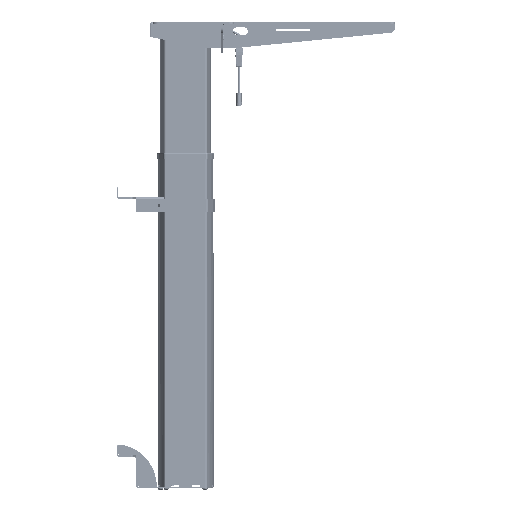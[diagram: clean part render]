
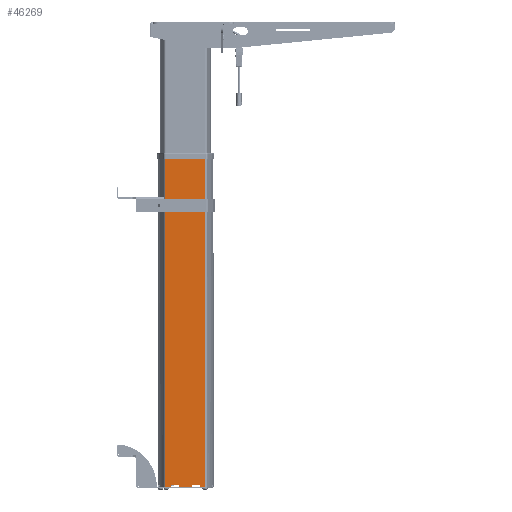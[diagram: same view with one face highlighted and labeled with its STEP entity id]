
A CAD part, left-side view. The second image highlights one B-rep face of the part: STEP entity #46269.
In plain terms, the highlighted planar face has unit normal (-1, 0, 0).
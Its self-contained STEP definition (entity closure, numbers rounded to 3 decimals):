
#869 = DIRECTION ( 'NONE',  ( 0., 0., -1. ) ) ;
#1371 = LINE ( 'NONE', #64216, #73036 ) ;
#2789 = VERTEX_POINT ( 'NONE', #105660 ) ;
#3153 = LINE ( 'NONE', #109099, #110423 ) ;
#4597 = DIRECTION ( 'NONE',  ( 0., 0., -1. ) ) ;
#4897 = ORIENTED_EDGE ( 'NONE', *, *, #40628, .F. ) ;
#6029 = LINE ( 'NONE', #40374, #95425 ) ;
#7270 = DIRECTION ( 'NONE',  ( 0., -1., 0. ) ) ;
#8859 = LINE ( 'NONE', #69983, #55859 ) ;
#8925 = DIRECTION ( 'NONE',  ( 0., 0., -1. ) ) ;
#9507 = CARTESIAN_POINT ( 'NONE',  ( -70., -27.6, 4.1 ) ) ;
#9650 = VECTOR ( 'NONE', #62387, 1000. ) ;
#9849 = CARTESIAN_POINT ( 'NONE',  ( -70., -12.4, 4.1 ) ) ;
#11447 = VERTEX_POINT ( 'NONE', #22945 ) ;
#11723 = ORIENTED_EDGE ( 'NONE', *, *, #63597, .T. ) ;
#13685 = VERTEX_POINT ( 'NONE', #66260 ) ;
#17993 = EDGE_CURVE ( 'NONE', #2789, #109382, #90922, .T. ) ;
#20906 = EDGE_CURVE ( 'NONE', #70491, #65183, #44430, .T. ) ;
#21198 = DIRECTION ( 'NONE',  ( 0., -1., 0. ) ) ;
#21821 = ORIENTED_EDGE ( 'NONE', *, *, #17993, .T. ) ;
#22945 = CARTESIAN_POINT ( 'NONE',  ( -70., -38.327, 644. ) ) ;
#22980 = EDGE_CURVE ( 'NONE', #70491, #86073, #51622, .T. ) ;
#26695 = DIRECTION ( 'NONE',  ( 1., 0., 0. ) ) ;
#27584 = DIRECTION ( 'NONE',  ( 0., -1., 0. ) ) ;
#27768 = VERTEX_POINT ( 'NONE', #87987 ) ;
#31491 = LINE ( 'NONE', #74546, #81648 ) ;
#32093 = CARTESIAN_POINT ( 'NONE',  ( -70., -38.327, 0. ) ) ;
#32761 = EDGE_CURVE ( 'NONE', #27768, #103512, #31491, .T. ) ;
#33206 = CARTESIAN_POINT ( 'NONE',  ( -70., 20.312, 634.25 ) ) ;
#33731 = PLANE ( 'NONE',  #89962 ) ;
#34174 = DIRECTION ( 'NONE',  ( 0., 1., 0. ) ) ;
#34898 = LINE ( 'NONE', #9849, #56189 ) ;
#37691 = EDGE_CURVE ( 'NONE', #13685, #103512, #90401, .T. ) ;
#37832 = DIRECTION ( 'NONE',  ( 1., 0., 0. ) ) ;
#40374 = CARTESIAN_POINT ( 'NONE',  ( -70., -39., 0. ) ) ;
#40628 = EDGE_CURVE ( 'NONE', #86073, #60782, #34898, .T. ) ;
#40776 = DIRECTION ( 'NONE',  ( 0., -1., 0. ) ) ;
#41950 = VECTOR ( 'NONE', #34174, 1000. ) ;
#43205 = CARTESIAN_POINT ( 'NONE',  ( -70., -27.6, 0. ) ) ;
#43450 = CARTESIAN_POINT ( 'NONE',  ( -70., -12.4, 4.1 ) ) ;
#44430 = LINE ( 'NONE', #9507, #54667 ) ;
#46269 = ADVANCED_FACE ( 'NONE', ( #66271, #70919 ), #33731, .F. ) ;
#48483 = CARTESIAN_POINT ( 'NONE',  ( -70., -12.4, 0. ) ) ;
#48817 = ORIENTED_EDGE ( 'NONE', *, *, #20906, .T. ) ;
#49014 = ORIENTED_EDGE ( 'NONE', *, *, #100515, .T. ) ;
#49580 = EDGE_LOOP ( 'NONE', ( #106261 ) ) ;
#49946 = CIRCLE ( 'NONE', #94588, 3.75 ) ;
#50105 = ORIENTED_EDGE ( 'NONE', *, *, #101488, .T. ) ;
#51163 = DIRECTION ( 'NONE',  ( 0., 0., -1. ) ) ;
#51366 = ORIENTED_EDGE ( 'NONE', *, *, #77941, .T. ) ;
#51622 = LINE ( 'NONE', #43450, #41950 ) ;
#52078 = CARTESIAN_POINT ( 'NONE',  ( -70., -39., 4.1 ) ) ;
#52314 = CARTESIAN_POINT ( 'NONE',  ( -70., 27.6, 0. ) ) ;
#53507 = DIRECTION ( 'NONE',  ( 0., 0., -1. ) ) ;
#54667 = VECTOR ( 'NONE', #96285, 1000. ) ;
#54833 = VERTEX_POINT ( 'NONE', #98557 ) ;
#55859 = VECTOR ( 'NONE', #107206, 1000. ) ;
#56189 = VECTOR ( 'NONE', #53507, 1000. ) ;
#59702 = CARTESIAN_POINT ( 'NONE',  ( -70., 12.4, 0. ) ) ;
#60782 = VERTEX_POINT ( 'NONE', #48483 ) ;
#62387 = DIRECTION ( 'NONE',  ( 0., 0., -1. ) ) ;
#63547 = CARTESIAN_POINT ( 'NONE',  ( -70., 12.4, 644. ) ) ;
#63597 = EDGE_CURVE ( 'NONE', #13685, #2789, #76564, .T. ) ;
#63610 = ORIENTED_EDGE ( 'NONE', *, *, #37691, .F. ) ;
#64216 = CARTESIAN_POINT ( 'NONE',  ( -70., -39., 644. ) ) ;
#65183 = VERTEX_POINT ( 'NONE', #43205 ) ;
#65742 = CARTESIAN_POINT ( 'NONE',  ( -70., 20.312, 638. ) ) ;
#66260 = CARTESIAN_POINT ( 'NONE',  ( -70., 27.6, 4.1 ) ) ;
#66271 = FACE_BOUND ( 'NONE', #49580, .T. ) ;
#68430 = ORIENTED_EDGE ( 'NONE', *, *, #86167, .F. ) ;
#69983 = CARTESIAN_POINT ( 'NONE',  ( -70., -39., 0. ) ) ;
#70085 = CARTESIAN_POINT ( 'NONE',  ( -70., -12.4, 4.1 ) ) ;
#70491 = VERTEX_POINT ( 'NONE', #102057 ) ;
#70919 = FACE_OUTER_BOUND ( 'NONE', #97975, .T. ) ;
#73036 = VECTOR ( 'NONE', #27584, 1000. ) ;
#73820 = ORIENTED_EDGE ( 'NONE', *, *, #32761, .T. ) ;
#73880 = DIRECTION ( 'NONE',  ( 0., 0., -1. ) ) ;
#74546 = CARTESIAN_POINT ( 'NONE',  ( -70., -39., 0. ) ) ;
#76564 = LINE ( 'NONE', #52078, #82206 ) ;
#77941 = EDGE_CURVE ( 'NONE', #65183, #86976, #8859, .T. ) ;
#81648 = VECTOR ( 'NONE', #40776, 1000. ) ;
#82206 = VECTOR ( 'NONE', #7270, 1000. ) ;
#82708 = EDGE_CURVE ( 'NONE', #94941, #94941, #49946, .T. ) ;
#83179 = LINE ( 'NONE', #101224, #84718 ) ;
#84718 = VECTOR ( 'NONE', #4597, 1000. ) ;
#86073 = VERTEX_POINT ( 'NONE', #70085 ) ;
#86167 = EDGE_CURVE ( 'NONE', #54833, #11447, #1371, .T. ) ;
#86976 = VERTEX_POINT ( 'NONE', #32093 ) ;
#87987 = CARTESIAN_POINT ( 'NONE',  ( -70., 39., 0. ) ) ;
#88676 = CARTESIAN_POINT ( 'NONE',  ( -70., 27.6, 644. ) ) ;
#89962 = AXIS2_PLACEMENT_3D ( 'NONE', #113450, #26695, #51163 ) ;
#90401 = LINE ( 'NONE', #88676, #113705 ) ;
#90922 = LINE ( 'NONE', #63547, #9650 ) ;
#94588 = AXIS2_PLACEMENT_3D ( 'NONE', #65742, #37832, #73880 ) ;
#94941 = VERTEX_POINT ( 'NONE', #33206 ) ;
#95425 = VECTOR ( 'NONE', #21198, 1000. ) ;
#96285 = DIRECTION ( 'NONE',  ( 0., 0., -1. ) ) ;
#97975 = EDGE_LOOP ( 'NONE', ( #63610, #11723, #21821, #49014, #4897, #111802, #48817, #51366, #107866, #68430, #50105, #73820 ) ) ;
#98557 = CARTESIAN_POINT ( 'NONE',  ( -70., 39., 644. ) ) ;
#100515 = EDGE_CURVE ( 'NONE', #109382, #60782, #6029, .T. ) ;
#101224 = CARTESIAN_POINT ( 'NONE',  ( -70., -38.327, 644. ) ) ;
#101488 = EDGE_CURVE ( 'NONE', #54833, #27768, #3153, .T. ) ;
#102057 = CARTESIAN_POINT ( 'NONE',  ( -70., -27.6, 4.1 ) ) ;
#103512 = VERTEX_POINT ( 'NONE', #52314 ) ;
#105660 = CARTESIAN_POINT ( 'NONE',  ( -70., 12.4, 4.1 ) ) ;
#106261 = ORIENTED_EDGE ( 'NONE', *, *, #82708, .T. ) ;
#106726 = EDGE_CURVE ( 'NONE', #11447, #86976, #83179, .T. ) ;
#107206 = DIRECTION ( 'NONE',  ( 0., -1., 0. ) ) ;
#107866 = ORIENTED_EDGE ( 'NONE', *, *, #106726, .F. ) ;
#109099 = CARTESIAN_POINT ( 'NONE',  ( -70., 39., 644. ) ) ;
#109382 = VERTEX_POINT ( 'NONE', #59702 ) ;
#110423 = VECTOR ( 'NONE', #869, 1000. ) ;
#111802 = ORIENTED_EDGE ( 'NONE', *, *, #22980, .F. ) ;
#113450 = CARTESIAN_POINT ( 'NONE',  ( -70., -39., 644. ) ) ;
#113705 = VECTOR ( 'NONE', #8925, 1000. ) ;
